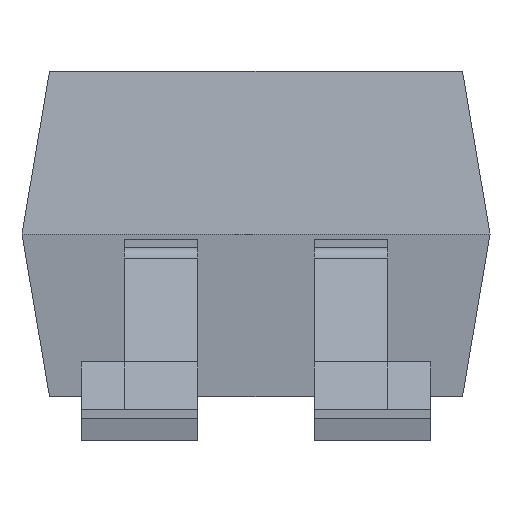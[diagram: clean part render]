
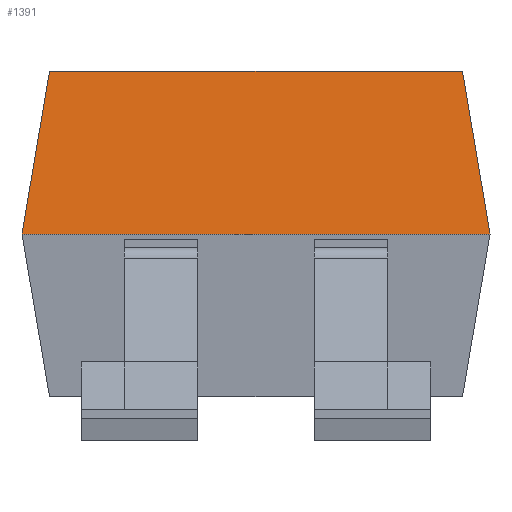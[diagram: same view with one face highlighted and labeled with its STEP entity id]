
A CAD part, left-side view. The second image highlights one B-rep face of the part: STEP entity #1391.
In plain terms, the highlighted planar face has unit normal (-0.994, 0, 0.112).
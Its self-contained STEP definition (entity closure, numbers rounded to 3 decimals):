
#72 = PLANE('',#73);
#73 = AXIS2_PLACEMENT_3D('',#74,#75,#76);
#74 = CARTESIAN_POINT('',(0.,2.404,3.141));
#75 = DIRECTION('',(0.,0.986,0.167));
#76 = DIRECTION('',(0.,-0.167,0.986));
#100 = PLANE('',#101);
#101 = AXIS2_PLACEMENT_3D('',#102,#103,#104);
#102 = CARTESIAN_POINT('',(0.,0.,4.05));
#103 = DIRECTION('',(0.,0.,1.));
#104 = DIRECTION('',(1.,0.,0.));
#126 = PLANE('',#127);
#127 = AXIS2_PLACEMENT_3D('',#128,#129,#130);
#128 = CARTESIAN_POINT('',(0.,-2.404,
    3.141));
#129 = DIRECTION('',(0.,-0.986,0.167)
  );
#130 = DIRECTION('',(0.,-0.167,-0.986
    ));
#440 = VERTEX_POINT('',#441);
#441 = CARTESIAN_POINT('',(-3.4,2.55,2.275));
#462 = EDGE_CURVE('',#440,#463,#465,.T.);
#463 = VERTEX_POINT('',#464);
#464 = CARTESIAN_POINT('',(-3.2,2.25,4.05));
#465 = SURFACE_CURVE('',#466,(#470,#477),.PCURVE_S1.);
#466 = LINE('',#467,#468);
#467 = CARTESIAN_POINT('',(-3.4,2.55,2.275));
#468 = VECTOR('',#469,1.);
#469 = DIRECTION('',(0.11,-0.166,0.98));
#470 = PCURVE('',#72,#471);
#471 = DEFINITIONAL_REPRESENTATION('',(#472),#476);
#472 = LINE('',#473,#474);
#473 = CARTESIAN_POINT('',(-0.879,-3.4));
#474 = VECTOR('',#475,1.);
#475 = DIRECTION('',(0.994,0.11));
#476 = ( GEOMETRIC_REPRESENTATION_CONTEXT(2) 
PARAMETRIC_REPRESENTATION_CONTEXT() REPRESENTATION_CONTEXT('2D SPACE',''
  ) );
#477 = PCURVE('',#478,#483);
#478 = PLANE('',#479);
#479 = AXIS2_PLACEMENT_3D('',#480,#481,#482);
#480 = CARTESIAN_POINT('',(-3.305,0.,
    3.122));
#481 = DIRECTION('',(-0.994,0.,0.112)
  );
#482 = DIRECTION('',(-0.112,0.,-0.994)
  );
#483 = DEFINITIONAL_REPRESENTATION('',(#484),#488);
#484 = LINE('',#485,#486);
#485 = CARTESIAN_POINT('',(0.853,-2.55));
#486 = VECTOR('',#487,1.);
#487 = DIRECTION('',(-0.986,0.166));
#488 = ( GEOMETRIC_REPRESENTATION_CONTEXT(2) 
PARAMETRIC_REPRESENTATION_CONTEXT() REPRESENTATION_CONTEXT('2D SPACE',''
  ) );
#517 = EDGE_CURVE('',#463,#518,#520,.T.);
#518 = VERTEX_POINT('',#519);
#519 = CARTESIAN_POINT('',(-3.2,-2.25,4.05));
#520 = SURFACE_CURVE('',#521,(#525,#532),.PCURVE_S1.);
#521 = LINE('',#522,#523);
#522 = CARTESIAN_POINT('',(-3.2,2.25,4.05));
#523 = VECTOR('',#524,1.);
#524 = DIRECTION('',(0.,-1.,0.));
#525 = PCURVE('',#100,#526);
#526 = DEFINITIONAL_REPRESENTATION('',(#527),#531);
#527 = LINE('',#528,#529);
#528 = CARTESIAN_POINT('',(-3.2,2.25));
#529 = VECTOR('',#530,1.);
#530 = DIRECTION('',(0.,-1.));
#531 = ( GEOMETRIC_REPRESENTATION_CONTEXT(2) 
PARAMETRIC_REPRESENTATION_CONTEXT() REPRESENTATION_CONTEXT('2D SPACE',''
  ) );
#532 = PCURVE('',#478,#533);
#533 = DEFINITIONAL_REPRESENTATION('',(#534),#538);
#534 = LINE('',#535,#536);
#535 = CARTESIAN_POINT('',(-0.934,-2.25));
#536 = VECTOR('',#537,1.);
#537 = DIRECTION('',(0.,1.));
#538 = ( GEOMETRIC_REPRESENTATION_CONTEXT(2) 
PARAMETRIC_REPRESENTATION_CONTEXT() REPRESENTATION_CONTEXT('2D SPACE',''
  ) );
#565 = VERTEX_POINT('',#566);
#566 = CARTESIAN_POINT('',(-3.4,-2.55,2.275));
#589 = EDGE_CURVE('',#565,#518,#590,.T.);
#590 = SURFACE_CURVE('',#591,(#595,#602),.PCURVE_S1.);
#591 = LINE('',#592,#593);
#592 = CARTESIAN_POINT('',(-3.4,-2.55,2.275));
#593 = VECTOR('',#594,1.);
#594 = DIRECTION('',(0.11,0.166,0.98));
#595 = PCURVE('',#126,#596);
#596 = DEFINITIONAL_REPRESENTATION('',(#597),#601);
#597 = LINE('',#598,#599);
#598 = CARTESIAN_POINT('',(0.879,-3.4));
#599 = VECTOR('',#600,1.);
#600 = DIRECTION('',(-0.994,0.11));
#601 = ( GEOMETRIC_REPRESENTATION_CONTEXT(2) 
PARAMETRIC_REPRESENTATION_CONTEXT() REPRESENTATION_CONTEXT('2D SPACE',''
  ) );
#602 = PCURVE('',#478,#603);
#603 = DEFINITIONAL_REPRESENTATION('',(#604),#608);
#604 = LINE('',#605,#606);
#605 = CARTESIAN_POINT('',(0.853,2.55));
#606 = VECTOR('',#607,1.);
#607 = DIRECTION('',(-0.986,-0.166));
#608 = ( GEOMETRIC_REPRESENTATION_CONTEXT(2) 
PARAMETRIC_REPRESENTATION_CONTEXT() REPRESENTATION_CONTEXT('2D SPACE',''
  ) );
#630 = PLANE('',#631);
#631 = AXIS2_PLACEMENT_3D('',#632,#633,#634);
#632 = CARTESIAN_POINT('',(-3.305,0.,
    1.428));
#633 = DIRECTION('',(-0.994,0.,-0.112
    ));
#634 = DIRECTION('',(0.112,0.,-0.994)
  );
#1391 = ADVANCED_FACE('',(#1392),#478,.T.);
#1392 = FACE_BOUND('',#1393,.T.);
#1393 = EDGE_LOOP('',(#1394,#1415,#1416,#1417));
#1394 = ORIENTED_EDGE('',*,*,#1395,.F.);
#1395 = EDGE_CURVE('',#565,#440,#1396,.T.);
#1396 = SURFACE_CURVE('',#1397,(#1401,#1408),.PCURVE_S1.);
#1397 = LINE('',#1398,#1399);
#1398 = CARTESIAN_POINT('',(-3.4,-2.55,2.275));
#1399 = VECTOR('',#1400,1.);
#1400 = DIRECTION('',(0.,1.,0.));
#1401 = PCURVE('',#478,#1402);
#1402 = DEFINITIONAL_REPRESENTATION('',(#1403),#1407);
#1403 = LINE('',#1404,#1405);
#1404 = CARTESIAN_POINT('',(0.853,2.55));
#1405 = VECTOR('',#1406,1.);
#1406 = DIRECTION('',(0.,-1.));
#1407 = ( GEOMETRIC_REPRESENTATION_CONTEXT(2) 
PARAMETRIC_REPRESENTATION_CONTEXT() REPRESENTATION_CONTEXT('2D SPACE',''
  ) );
#1408 = PCURVE('',#630,#1409);
#1409 = DEFINITIONAL_REPRESENTATION('',(#1410),#1414);
#1410 = LINE('',#1411,#1412);
#1411 = CARTESIAN_POINT('',(-0.853,2.55));
#1412 = VECTOR('',#1413,1.);
#1413 = DIRECTION('',(-0.,-1.));
#1414 = ( GEOMETRIC_REPRESENTATION_CONTEXT(2) 
PARAMETRIC_REPRESENTATION_CONTEXT() REPRESENTATION_CONTEXT('2D SPACE',''
  ) );
#1415 = ORIENTED_EDGE('',*,*,#589,.T.);
#1416 = ORIENTED_EDGE('',*,*,#517,.F.);
#1417 = ORIENTED_EDGE('',*,*,#462,.F.);
